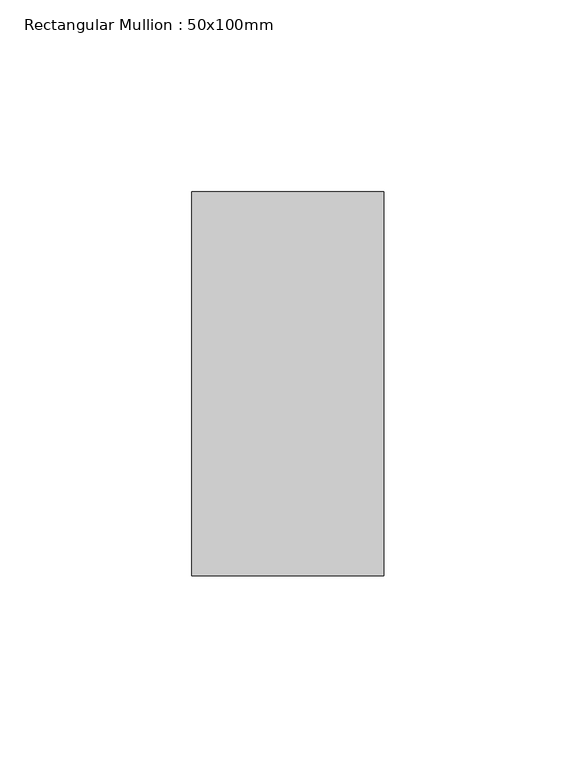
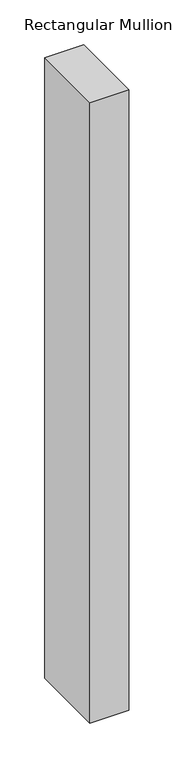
"""IFC4 building model written with IfcOpenShell, lengths in millimetres: member geometry, Rectangular Mullion : 50x100mm."""

import ifcopenshell
import ifcopenshell.guid

model = None  # the IFC model being written
_history = None  # IfcOwnerHistory: only IFC2X3 demands one
_inside = {}  # id of a spatial element -> (the spatial element, [elements in it])
_under = {}  # id of a project, library or spatial element -> (it, [spatial elements below it])
_declared = {}  # id of a project -> (the project, [libraries it declares])
_typed = {}  # id of a type object -> (the type object, [elements of that type])
_made_of = {}  # id of a material, layer set ... -> (it, [elements and type objects made of it])


def new_model(schema):
    """Start an empty IFC model of exactly this schema.

    Asked for "IFC4X3", IfcOpenShell would pick the latest addendum, in which some entities
    have other attributes; the version numbers below select the first issue.
    IFC2X3 requires an IfcOwnerHistory on every rooted entity: one is made here for all.
    """
    global model, _history
    if schema == "IFC4X3":
        model = ifcopenshell.file(schema_version=(4, 3, 0, 0))
    else:
        model = ifcopenshell.file(schema=schema)
    _inside.clear()
    _under.clear()
    _declared.clear()
    _typed.clear()
    _made_of.clear()
    _history = None
    if model.schema == "IFC2X3":
        org = make("IfcOrganization", Name="unknown")
        user = make(
            "IfcPersonAndOrganization",
            ThePerson=make("IfcPerson", FamilyName="unknown"),
            TheOrganization=org,
        )
        app = make(
            "IfcApplication",
            ApplicationDeveloper=org,
            Version="unknown",
            ApplicationFullName="unknown",
            ApplicationIdentifier="unknown",
        )
        _history = make(
            "IfcOwnerHistory",
            OwningUser=user,
            OwningApplication=app,
            ChangeAction="ADDED",
            CreationDate=0,
        )
    return model


def make(cls, **values):
    """One entity of the class cls with the attributes given. An attribute that is None is left unset."""
    return model.create_entity(
        cls, **{name: value for name, value in values.items() if value is not None}
    )


def rooted(cls, **values):
    """An entity with a GlobalId (a new one), such as an element, a storey or a relation."""
    return make(cls, GlobalId=ifcopenshell.guid.new(), OwnerHistory=_history, **values)


def si_unit(unit_type, name, prefix=None):
    """IfcSIUnit, for example si_unit("LENGTHUNIT", "METRE", prefix="MILLI")."""
    return make("IfcSIUnit", UnitType=unit_type, Prefix=prefix, Name=name)


def assignment(units):
    """IfcUnitAssignment: the units of a project."""
    return None if units is None else make("IfcUnitAssignment", Units=units)


def point(xyz):
    """IfcCartesianPoint."""
    return None if xyz is None else make("IfcCartesianPoint", Coordinates=xyz)


def direction(xyz):
    """IfcDirection."""
    return None if xyz is None else make("IfcDirection", DirectionRatios=xyz)


def frame(location, z_axis=None, x_axis=None):
    """IfcAxis2Placement3D, a coordinate frame: its origin and axes. An axis left out is left unset."""
    return make(
        "IfcAxis2Placement3D",
        Location=point(location),
        Axis=direction(z_axis),
        RefDirection=direction(x_axis),
    )


def origin():
    """The frame at (0, 0, 0) with its axes left unset."""
    return frame((0.0, 0.0, 0.0))


def place(relative_to, where):
    """IfcLocalPlacement: puts the frame where relative to a parent placement (None: the world)."""
    return make(
        "IfcLocalPlacement", PlacementRelTo=relative_to, RelativePlacement=where
    )


def context(
    kind, dimensions, precision=None, world=None, true_north=None, identifier=None
):
    """IfcGeometricRepresentationContext, for example the 3D "Model" context."""
    return make(
        "IfcGeometricRepresentationContext",
        ContextIdentifier=identifier,
        ContextType=kind,
        CoordinateSpaceDimension=dimensions,
        Precision=precision,
        WorldCoordinateSystem=world,
        TrueNorth=true_north,
    )


def project(units=None, contexts=None):
    """IfcProject with its units and contexts."""
    return rooted(
        "IfcProject",
        Name="project",
        RepresentationContexts=contexts,
        UnitsInContext=assignment(units),
    )


def spatial(cls, under=None, at=None, **own):
    """A site, building, storey or space (cls), placed at a placement, below another one or the project."""
    s = rooted(cls, ObjectPlacement=at, **own)
    if under is not None:
        _under.setdefault(under.id(), (under, []))[1].append(s)
    return s


def polyline(points):
    """IfcPolyline through the points."""
    return make("IfcPolyline", Points=[point(p) for p in points])


def outline(outer, holes=None, kind="AREA"):
    """IfcArbitraryClosedProfileDef: a profile drawn as a closed curve; with holes, ...WithVoids."""
    if holes is None:
        return make("IfcArbitraryClosedProfileDef", ProfileType=kind, OuterCurve=outer)
    return make(
        "IfcArbitraryProfileDefWithVoids",
        ProfileType=kind,
        OuterCurve=outer,
        InnerCurves=holes,
    )


def extrude(swept, where, along, depth):
    """IfcExtrudedAreaSolid: the profile swept, set in the frame where, extruded along a direction by depth."""
    return make(
        "IfcExtrudedAreaSolid",
        SweptArea=swept,
        Position=where,
        ExtrudedDirection=direction(along),
        Depth=depth,
    )


def shape(context_of_items, identifier, shape_type, items):
    """IfcShapeRepresentation: the items that make up one representation, for example the "Body"."""
    return make(
        "IfcShapeRepresentation",
        ContextOfItems=context_of_items,
        RepresentationIdentifier=identifier,
        RepresentationType=shape_type,
        Items=items,
    )


def source(mapping_origin, context_of_items, identifier, shape_type, items):
    """IfcRepresentationMap: a shape defined once, which mapped items show again and again."""
    return make(
        "IfcRepresentationMap",
        MappingOrigin=mapping_origin,
        MappedRepresentation=shape(context_of_items, identifier, shape_type, items),
    )


def transform(
    local_origin,
    x_axis=None,
    y_axis=None,
    z_axis=None,
    scale=None,
    scale2=None,
    scale3=None,
    uniform=True,
):
    """IfcCartesianTransformationOperator3D, or its non-uniform kind. x_axis, y_axis, z_axis: its Axis1, 2, 3."""
    if uniform:
        return make(
            "IfcCartesianTransformationOperator3D",
            Axis1=direction(x_axis),
            Axis2=direction(y_axis),
            LocalOrigin=point(local_origin),
            Scale=scale,
            Axis3=direction(z_axis),
        )
    return make(
        "IfcCartesianTransformationOperator3DnonUniform",
        Axis1=direction(x_axis),
        Axis2=direction(y_axis),
        LocalOrigin=point(local_origin),
        Scale=scale,
        Axis3=direction(z_axis),
        Scale2=scale2,
        Scale3=scale3,
    )


def mapped(mapping_source, mapping_target):
    """IfcMappedItem: shows the shape of a source again, moved by a transform."""
    return make(
        "IfcMappedItem", MappingSource=mapping_source, MappingTarget=mapping_target
    )


def made_of(thing, what):
    """Note that an element or type object is made of a material, layer set ...; save() writes the relation."""
    if what is not None:
        _made_of.setdefault(what.id(), (what, []))[1].append(thing)
    return thing


def element(
    cls,
    number,
    at=None,
    inside=None,
    cuts=None,
    type_object=None,
    material=None,
    context=None,
    identifier="Body",
    shape_type=None,
    held_by="IfcProductDefinitionShape",
    body=None,
    shapes=None,
    **own,
):
    """One element of the class cls, such as IfcWall. Its Tag is "e" and its number.

    at: its placement. inside: the storey or other place that contains it. cuts: it is an
    opening in that element (IfcRelVoidsElement). A single representation is given by context,
    identifier, shape_type and body (its items); several are given by shapes. held_by: the class
    of the entity that holds the representations. save() writes the other relations.
    """
    e = rooted(cls, Tag="e%d" % number, ObjectPlacement=at, **own)
    if body is not None:
        shapes = [shape(context, identifier, shape_type, body)]
    if shapes is not None:
        e.Representation = make(held_by, Representations=shapes)
    if inside is not None:
        _inside.setdefault(inside.id(), (inside, []))[1].append(e)
    if cuts is not None:
        rooted(
            "IfcRelVoidsElement", RelatingBuildingElement=cuts, RelatedOpeningElement=e
        )
    if type_object is not None:
        _typed.setdefault(type_object.id(), (type_object, []))[1].append(e)
    return made_of(e, material)


def aggregate(whole, parts):
    """IfcRelAggregates: a whole, such as a stair, and the parts it consists of."""
    return rooted("IfcRelAggregates", RelatingObject=whole, RelatedObjects=parts)


def save(model, path):
    """Write the relations noted so far, then the file.

    IfcRelAggregates (storeys below a building ...), IfcRelContainedInSpatialStructure (elements
    in a storey), IfcRelDefinesByType, IfcRelAssociatesMaterial and IfcRelDeclares: one each for
    every whole, place, type object, material and project.
    """
    for whole, parts in _under.values():
        aggregate(whole, parts)
    for where, things in _inside.values():
        rooted(
            "IfcRelContainedInSpatialStructure",
            RelatedElements=things,
            RelatingStructure=where,
        )
    for kind, things in _typed.values():
        rooted("IfcRelDefinesByType", RelatedObjects=things, RelatingType=kind)
    for what, things in _made_of.values():
        rooted("IfcRelAssociatesMaterial", RelatedObjects=things, RelatingMaterial=what)
    for by, libraries in _declared.values():
        rooted("IfcRelDeclares", RelatingContext=by, RelatedDefinitions=libraries)
    model.write(path)


def rectangular_mullion_50x100mm_46878a3f(model_context):
    return source(origin(), model_context, "Body", "SweptSolid", [
        extrude(outline(polyline([(0.0, 50.0), (0.0, -50.0), (-50.0, -50.0), (-50.0, 50.0), (0.0, 50.0)])), frame((0.0, 0.0, -841.5056765), z_axis=(0.0, 0.0, 1.0), x_axis=(1.0, 0.0, 0.0)), (0.0, 0.0, 1.0), 841.5056765),
    ])


if __name__ == "__main__":
    model = new_model("IFC4")
    model_context = context("Model", 3, world=origin())
    ifc_project = project(units=[si_unit("LENGTHUNIT", "METRE", prefix="MILLI")], contexts=[model_context])
    site = spatial("IfcSite", under=ifc_project)
    building = spatial("IfcBuilding", under=site)
    placement = place(None, origin())
    rectangular_mullion_50x100mm_shape = rectangular_mullion_50x100mm_46878a3f(model_context)
    element("IfcMember", 1, ObjectType="Rectangular Mullion : 50x100mm", at=placement, inside=building, context=model_context, shape_type="MappedRepresentation", body=[
        mapped(rectangular_mullion_50x100mm_shape, transform((0.0, 0.0, 0.0), x_axis=(1.0, 0.0, 0.0), y_axis=(0.0, 1.0, 0.0), z_axis=(0.0, 0.0, 1.0))),
    ])
    save(model, "model.ifc")
